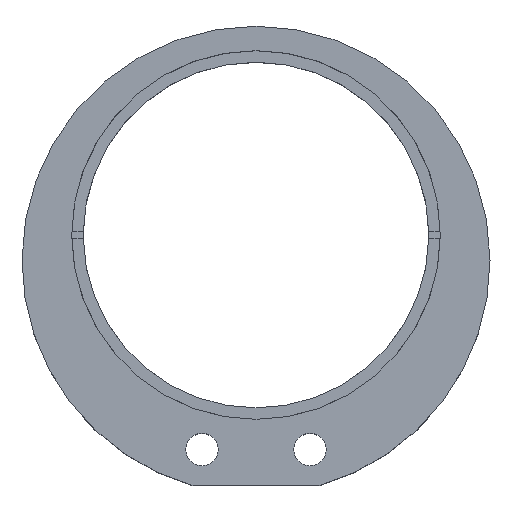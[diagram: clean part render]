
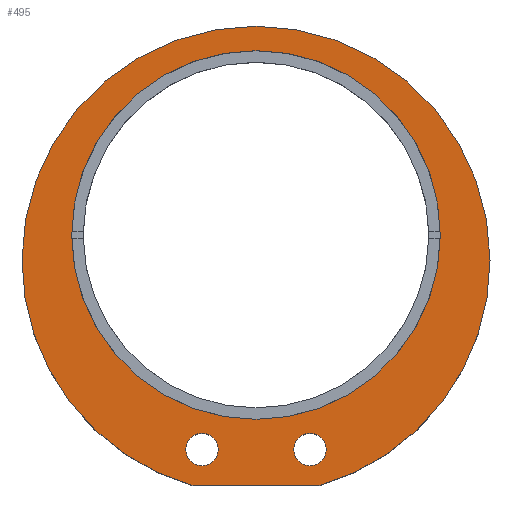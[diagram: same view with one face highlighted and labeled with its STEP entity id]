
A CAD part, top view. The second image highlights one B-rep face of the part: STEP entity #495.
In plain terms, the highlighted planar face has unit normal (0, 0, 1).
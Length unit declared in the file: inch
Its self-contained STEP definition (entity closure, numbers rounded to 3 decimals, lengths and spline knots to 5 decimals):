
#37 = VERTEX_POINT ( 'NONE', #581 ) ;
#41 = EDGE_CURVE ( 'NONE', #43, #37, #579, .T. ) ;
#43 = VERTEX_POINT ( 'NONE', #570 ) ;
#74 = EDGE_CURVE ( 'NONE', #81, #75, #644, .T. ) ;
#75 = VERTEX_POINT ( 'NONE', #639 ) ;
#78 = VERTEX_POINT ( 'NONE', #634 ) ;
#80 = EDGE_CURVE ( 'NONE', #78, #81, #633, .T. ) ;
#81 = VERTEX_POINT ( 'NONE', #628 ) ;
#84 = EDGE_CURVE ( 'NONE', #90, #96, #627, .T. ) ;
#90 = VERTEX_POINT ( 'NONE', #676 ) ;
#96 = VERTEX_POINT ( 'NONE', #664 ) ;
#133 = EDGE_CURVE ( 'NONE', #134, #135, #808, .T. ) ;
#134 = VERTEX_POINT ( 'NONE', #799 ) ;
#135 = VERTEX_POINT ( 'NONE', #798 ) ;
#388 = EDGE_CURVE ( 'NONE', #96, #90, #1300, .T. ) ;
#420 = EDGE_CURVE ( 'NONE', #488, #78, #1330, .T. ) ;
#450 = EDGE_CURVE ( 'NONE', #37, #43, #1420, .T. ) ;
#455 = EDGE_CURVE ( 'NONE', #135, #134, #1413, .T. ) ;
#474 = ORIENTED_EDGE ( 'NONE', *, *, #487, .F. ) ;
#475 = ORIENTED_EDGE ( 'NONE', *, *, #74, .F. ) ;
#476 = ORIENTED_EDGE ( 'NONE', *, *, #80, .F. ) ;
#477 = EDGE_LOOP ( 'NONE', ( #478, #479 ) ) ;
#478 = ORIENTED_EDGE ( 'NONE', *, *, #133, .F. ) ;
#479 = ORIENTED_EDGE ( 'NONE', *, *, #455, .F. ) ;
#480 = EDGE_LOOP ( 'NONE', ( #481, #482 ) ) ;
#481 = ORIENTED_EDGE ( 'NONE', *, *, #450, .F. ) ;
#482 = ORIENTED_EDGE ( 'NONE', *, *, #41, .F. ) ;
#483 = EDGE_LOOP ( 'NONE', ( #484, #485 ) ) ;
#484 = ORIENTED_EDGE ( 'NONE', *, *, #388, .F. ) ;
#485 = ORIENTED_EDGE ( 'NONE', *, *, #84, .F. ) ;
#487 = EDGE_CURVE ( 'NONE', #75, #488, #1393, .T. ) ;
#488 = VERTEX_POINT ( 'NONE', #1447 ) ;
#495 = ADVANCED_FACE ( 'NONE', ( #1442, #1441, #1440, #1439 ), #1438, .F. ) ;
#496 = EDGE_LOOP ( 'NONE', ( #497, #474, #475, #476 ) ) ;
#497 = ORIENTED_EDGE ( 'NONE', *, *, #420, .F. ) ;
#570 = CARTESIAN_POINT ( 'NONE',  ( 5.25, -26.3, 18. ) ) ;
#575 = DIRECTION ( 'NONE',  ( 1., 0., 0. ) ) ;
#576 = DIRECTION ( 'NONE',  ( 0., 0., 1. ) ) ;
#577 = CARTESIAN_POINT ( 'NONE',  ( 7.5, -26.3, 18. ) ) ;
#578 = AXIS2_PLACEMENT_3D ( 'NONE', #577, #576, #575 ) ;
#579 = CIRCLE ( 'NONE', #578, 2.25 ) ;
#581 = CARTESIAN_POINT ( 'NONE',  ( 9.75, -26.3, 18. ) ) ;
#623 = DIRECTION ( 'NONE',  ( 1., 0., 0. ) ) ;
#624 = DIRECTION ( 'NONE',  ( 0., 0., 1. ) ) ;
#625 = CARTESIAN_POINT ( 'NONE',  ( -7.5, -26.3, 18. ) ) ;
#626 = AXIS2_PLACEMENT_3D ( 'NONE', #625, #624, #623 ) ;
#627 = CIRCLE ( 'NONE', #626, 2.25 ) ;
#628 = CARTESIAN_POINT ( 'NONE',  ( 32.5, 0., 18. ) ) ;
#629 = DIRECTION ( 'NONE',  ( 1., 0., 0. ) ) ;
#630 = DIRECTION ( 'NONE',  ( 0., 0., -1. ) ) ;
#631 = CARTESIAN_POINT ( 'NONE',  ( 0., 0., 18. ) ) ;
#632 = AXIS2_PLACEMENT_3D ( 'NONE', #631, #630, #629 ) ;
#633 = CIRCLE ( 'NONE', #632, 32.5 ) ;
#634 = CARTESIAN_POINT ( 'NONE',  ( -32.5, 0., 18. ) ) ;
#639 = CARTESIAN_POINT ( 'NONE',  ( 8.74986, -31.3, 18. ) ) ;
#640 = DIRECTION ( 'NONE',  ( 1., 0., 0. ) ) ;
#641 = DIRECTION ( 'NONE',  ( 0., 0., -1. ) ) ;
#642 = CARTESIAN_POINT ( 'NONE',  ( 0., 0., 18. ) ) ;
#643 = AXIS2_PLACEMENT_3D ( 'NONE', #642, #641, #640 ) ;
#644 = CIRCLE ( 'NONE', #643, 32.5 ) ;
#664 = CARTESIAN_POINT ( 'NONE',  ( -5.25, -26.3, 18. ) ) ;
#676 = CARTESIAN_POINT ( 'NONE',  ( -9.75, -26.3, 18. ) ) ;
#798 = CARTESIAN_POINT ( 'NONE',  ( 25.6, 3.5, 18. ) ) ;
#799 = CARTESIAN_POINT ( 'NONE',  ( -25.6, 3.5, 18. ) ) ;
#800 = DIRECTION ( 'NONE',  ( -1., 0., 0. ) ) ;
#801 = DIRECTION ( 'NONE',  ( 0., 0., 1. ) ) ;
#802 = CARTESIAN_POINT ( 'NONE',  ( 0., 3.5, 18. ) ) ;
#803 = AXIS2_PLACEMENT_3D ( 'NONE', #802, #801, #800 ) ;
#808 = CIRCLE ( 'NONE', #803, 25.6 ) ;
#1296 = DIRECTION ( 'NONE',  ( 1., 0., 0. ) ) ;
#1297 = DIRECTION ( 'NONE',  ( 0., 0., 1. ) ) ;
#1298 = CARTESIAN_POINT ( 'NONE',  ( -7.5, -26.3, 18. ) ) ;
#1299 = AXIS2_PLACEMENT_3D ( 'NONE', #1298, #1297, #1296 ) ;
#1300 = CIRCLE ( 'NONE', #1299, 2.25 ) ;
#1330 = CIRCLE ( 'NONE', #1390, 32.5 ) ;
#1387 = DIRECTION ( 'NONE',  ( 1., 0., 0. ) ) ;
#1388 = DIRECTION ( 'NONE',  ( 0., 0., -1. ) ) ;
#1389 = CARTESIAN_POINT ( 'NONE',  ( 0., 0., 18. ) ) ;
#1390 = AXIS2_PLACEMENT_3D ( 'NONE', #1389, #1388, #1387 ) ;
#1393 = LINE ( 'NONE', #1450, #1449 ) ;
#1405 = DIRECTION ( 'NONE',  ( -1., 0., 0. ) ) ;
#1406 = DIRECTION ( 'NONE',  ( 0., 0., 1. ) ) ;
#1407 = CARTESIAN_POINT ( 'NONE',  ( 0., 3.5, 18. ) ) ;
#1408 = AXIS2_PLACEMENT_3D ( 'NONE', #1407, #1406, #1405 ) ;
#1413 = CIRCLE ( 'NONE', #1408, 25.6 ) ;
#1416 = DIRECTION ( 'NONE',  ( 1., 0., 0. ) ) ;
#1417 = DIRECTION ( 'NONE',  ( 0., 0., 1. ) ) ;
#1418 = CARTESIAN_POINT ( 'NONE',  ( 7.5, -26.3, 18. ) ) ;
#1419 = AXIS2_PLACEMENT_3D ( 'NONE', #1418, #1417, #1416 ) ;
#1420 = CIRCLE ( 'NONE', #1419, 2.25 ) ;
#1434 = DIRECTION ( 'NONE',  ( -1., 0., 0. ) ) ;
#1435 = DIRECTION ( 'NONE',  ( 0., 0., -1. ) ) ;
#1436 = CARTESIAN_POINT ( 'NONE',  ( 0., 0., 18. ) ) ;
#1437 = AXIS2_PLACEMENT_3D ( 'NONE', #1436, #1435, #1434 ) ;
#1438 = PLANE ( 'NONE',  #1437 ) ;
#1439 = FACE_BOUND ( 'NONE', #483, .T. ) ;
#1440 = FACE_BOUND ( 'NONE', #480, .T. ) ;
#1441 = FACE_BOUND ( 'NONE', #477, .T. ) ;
#1442 = FACE_OUTER_BOUND ( 'NONE', #496, .T. ) ;
#1447 = CARTESIAN_POINT ( 'NONE',  ( -8.74986, -31.3, 18. ) ) ;
#1448 = DIRECTION ( 'NONE',  ( -1., 0., 0. ) ) ;
#1449 = VECTOR ( 'NONE', #1448, 39.37008 ) ;
#1450 = CARTESIAN_POINT ( 'NONE',  ( 0., -31.3, 18. ) ) ;
